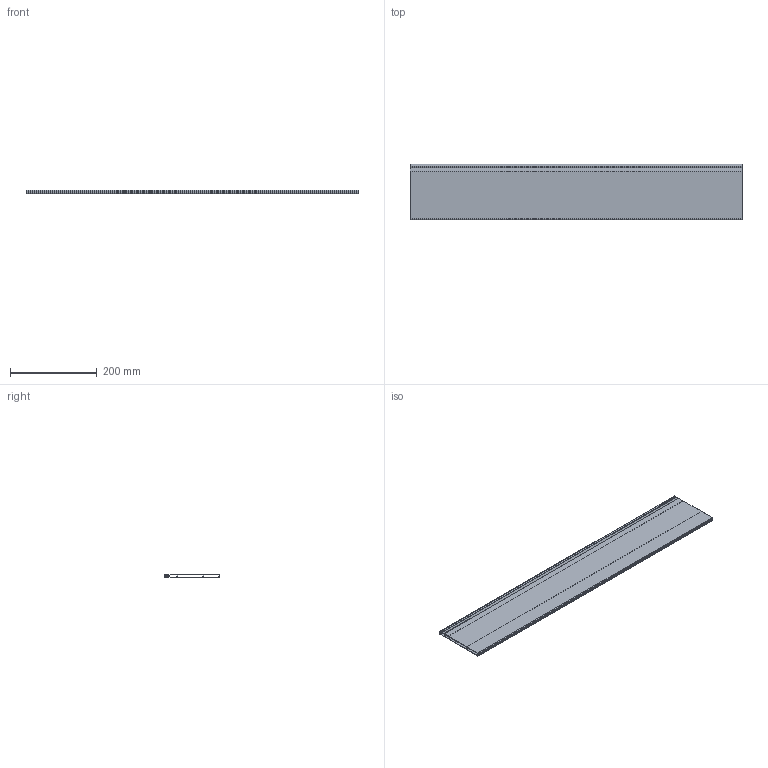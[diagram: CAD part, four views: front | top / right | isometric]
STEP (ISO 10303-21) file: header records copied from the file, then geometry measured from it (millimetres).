
FILE_DESCRIPTION (( 'STEP AP214' ), '1' );
FILE_NAME ('_Magic Optima Unterteilungsprofil DWD XP KAB 900.step', '2010-08-17T12:26:40', ( 'grass' ), ( '' ), 'SwSTEP 2.0', 'SolidWorks 2010', '' );
FILE_SCHEMA (( 'AUTOMOTIVE_DESIGN' ));
Length unit declared in the file: millimetre
Products named in the file (1): _Magic Optima Unterteilungsprofil DWD XP  KAB 900
Bounding box: 766 x 127.7 x 8.1 mm (x, y, z)
Volume: 268500.9 mm3; surface area: 416025.2 mm2
Topology: 1 solids, 1 shells, 39 faces, 111 edges, 74 vertices
Faces by surface type: plane 22, cylinder 17
Entity records: 1325 total; most frequent: CARTESIAN_POINT 225, DIRECTION 225, ORIENTED_EDGE 222, EDGE_CURVE 111, VECTOR 77, LINE 77, VERTEX_POINT 74, AXIS2_PLACEMENT_3D 74
